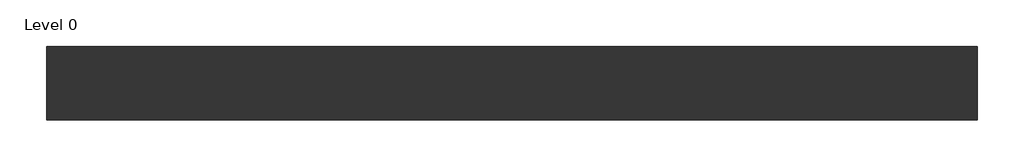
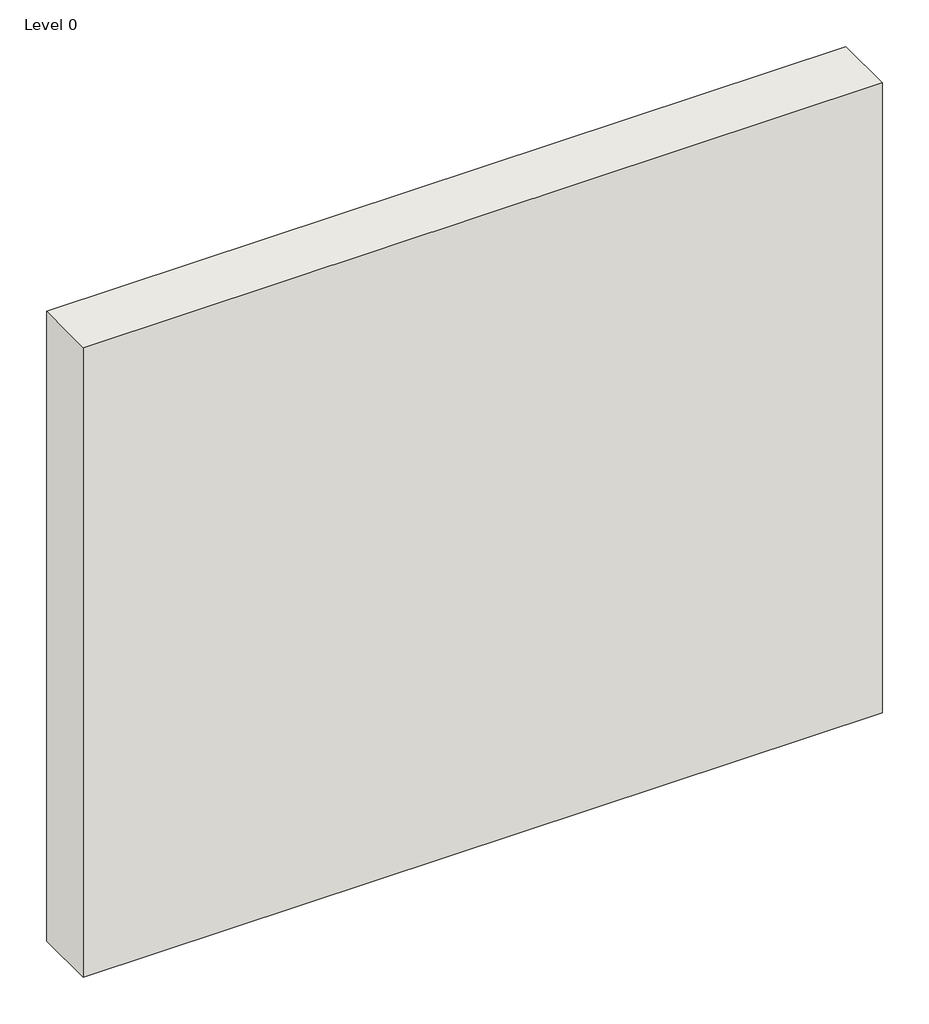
# One storey: 1 wall.
"""IFC4 building model written with IfcOpenShell, lengths in millimetres."""

from ifc_helpers import new_model, si_unit, origin, origin_with_axes, place, context, project, spatial, polyline, outline, extrude, element, save

model = new_model("IFC4")

# Units and contexts
model_context = context("Model", 3, world=origin())
ifc_project = project(units=[si_unit("LENGTHUNIT", "METRE", prefix="MILLI")], contexts=[model_context])

# Site, building, storey
site = spatial("IfcSite", under=ifc_project)
building = spatial("IfcBuilding", under=site)
storey = spatial("IfcBuildingStorey", under=building, Name="Level 0", Elevation=0.0)

# Wall
placement = place(None, origin())
element("IfcWall", 1, ObjectType="A316019 - GypWall QUIET SF", at=placement, inside=storey, context=model_context, shape_type="SweptSolid", body=[
    extrude(outline(polyline([(2116.0807354, 474.7205641), (-883.9192646, 474.7205641), (-883.9192646, 712.7205641), (2116.0807354, 712.7205641), (2116.0807354, 474.7205641)])), origin_with_axes(), (0.0, 0.0, 1.0), 2500.0),
])

save(model, "model.ifc")
